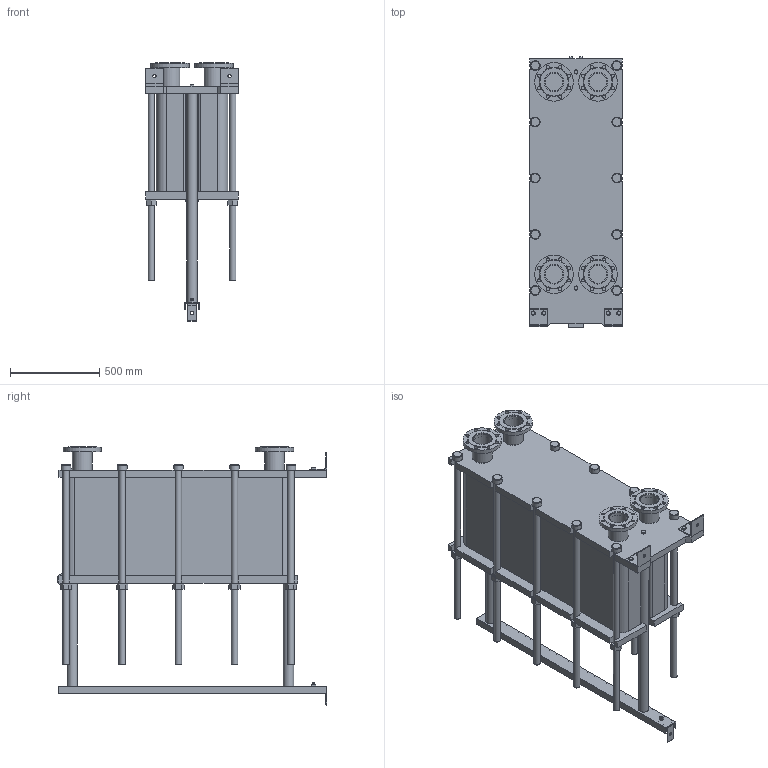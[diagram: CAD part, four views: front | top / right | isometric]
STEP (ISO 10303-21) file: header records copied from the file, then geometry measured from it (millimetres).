
FILE_DESCRIPTION(/* description */ (''),/* implementation_level */ '2;1');
FILE_NAME(/* name */ 'C:\Users\zhuro\Desktop\ENCO\TO\ЭН-04\ЭН-0,5-04-160-1.stp',/* time_stamp */ '2022-06-06T10:59:31+03:00',/* author */ ('zhuro'),/* organization */ (''),/* preprocessor_version */ 'ST-DEVELOPER v18.1',/* originating_system */ 'Autodesk Inventor 2022',/* authorisation */ '');
FILE_SCHEMA (('AUTOMOTIVE_DESIGN { 1 0 10303 214 3 1 1 }'));
Length unit declared in the file: millimetre
Products named in the file (1): ЭН-0,5-04-160-1
Bounding box: 520 x 1510 x 1445 mm (x, y, z)
Volume: 350301094 mm3; surface area: 9674667.6 mm2
Topology: 45 solids, 45 shells, 668 faces, 1611 edges, 1048 vertices
Faces by surface type: plane 457, cylinder 166, cone 39, torus 6
Full cylindrical faces by diameter (mm): 8 x4, 10 x2, 16 x8, 18 x35, 36 x25, 40 x2, 42 x1, 45 x4, 54 x10, 57 x2, 60 x10, 68 x2, 100 x4, 110 x8, 215 x4
Entity records: 23607 total; most frequent: CARTESIAN_POINT 7348, DIRECTION 3371, ORIENTED_EDGE 3142, EDGE_CURVE 1571, AXIS2_PLACEMENT_3D 1199, VERTEX_POINT 1044, LINE 973, VECTOR 973
